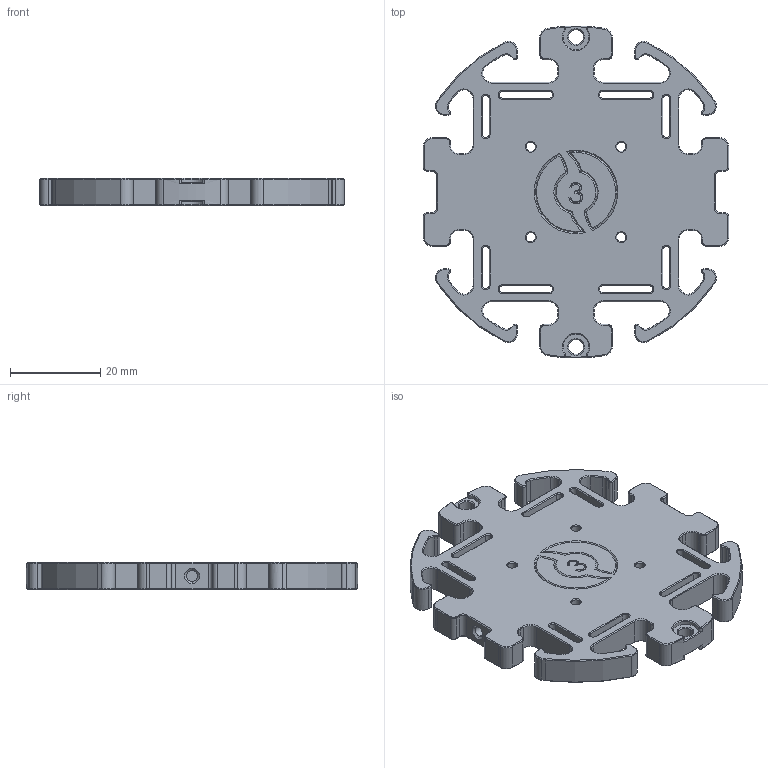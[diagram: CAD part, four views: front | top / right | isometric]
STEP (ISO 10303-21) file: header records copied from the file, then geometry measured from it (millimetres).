
FILE_DESCRIPTION (( 'STEP AP214' ), '1' );
FILE_NAME ('BR-103131-300_Rev_1.step', '2024-12-10T18:59:25', ( '' ), ( '' ), 'SwSTEP 2.0', 'SolidWorks 2024', '' );
FILE_SCHEMA (( 'AUTOMOTIVE_DESIGN' ));
Length unit declared in the file: millimetre
Products named in the file (1): BR-103131-300_Rev_1
Bounding box: 67.6 x 73.48 x 6 mm (x, y, z)
Volume: 18203.6 mm3; surface area: 10572.7 mm2
Topology: 1 solids, 1 shells, 725 faces, 1724 edges, 1006 vertices
Faces by surface type: cone 316, plane 225, cylinder 162, bspline 22
Entity records: 22555 total; most frequent: CARTESIAN_POINT 5612, DIRECTION 3710, ORIENTED_EDGE 3448, EDGE_CURVE 1724, AXIS2_PLACEMENT_3D 1372, VERTEX_POINT 1006, LINE 966, VECTOR 966
